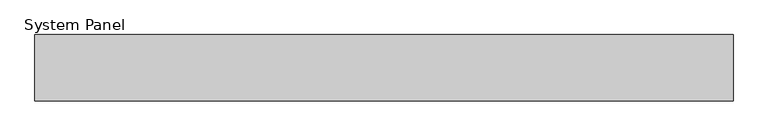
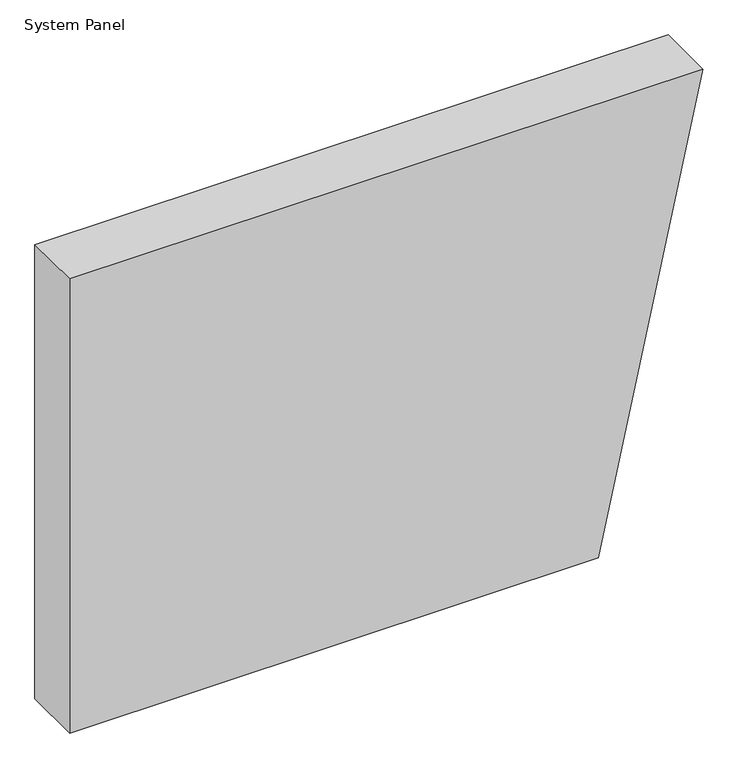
"""IFC4 building model written with IfcOpenShell, lengths in millimetres: plate geometry, System Panel : Equitilt 150mm Horizontal - Plain RHEA - MW."""

from ifc_helpers import new_model, si_unit, frame, origin, place, context, project, spatial, polyline, outline, extrude, source, transform, mapped, element, save


def system_panel_ebee40ae(model_context):
    return source(origin(), model_context, "Body", "SweptSolid", [
        extrude(outline(polyline([(0.0, -791.3074928), (0.0, 530.4358309), (1200.0, 791.3074928), (1200.0, -791.3074928), (0.0, -791.3074928)])), frame((0.0, -150.0, 0.0), z_axis=(0.0, 1.0, 0.0), x_axis=(0.0, 0.0, 1.0)), (0.0, 0.0, 1.0), 150.0),
    ])


if __name__ == "__main__":
    model = new_model("IFC4")
    model_context = context("Model", 3, world=origin())
    ifc_project = project(units=[si_unit("LENGTHUNIT", "METRE", prefix="MILLI")], contexts=[model_context])
    site = spatial("IfcSite", under=ifc_project)
    building = spatial("IfcBuilding", under=site)
    placement = place(None, origin())
    system_panel_shape = system_panel_ebee40ae(model_context)
    element("IfcPlate", 1, ObjectType="System Panel : Equitilt 150mm Horizontal - Plain RHEA - MW", at=placement, inside=building, context=model_context, shape_type="MappedRepresentation", body=[
        mapped(system_panel_shape, transform((0.0, 0.0, 0.0), x_axis=(1.0, 0.0, 0.0), y_axis=(0.0, 1.0, 0.0), z_axis=(0.0, 0.0, 1.0))),
    ])
    save(model, "model.ifc")
